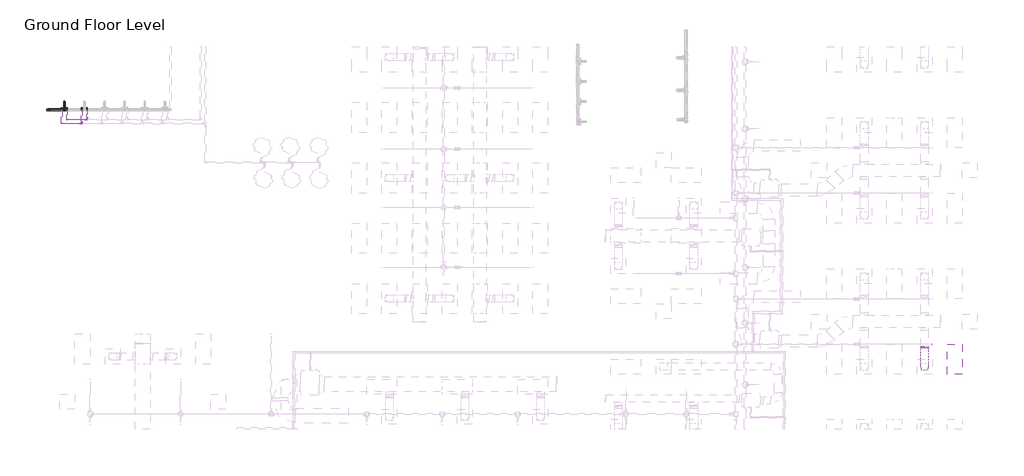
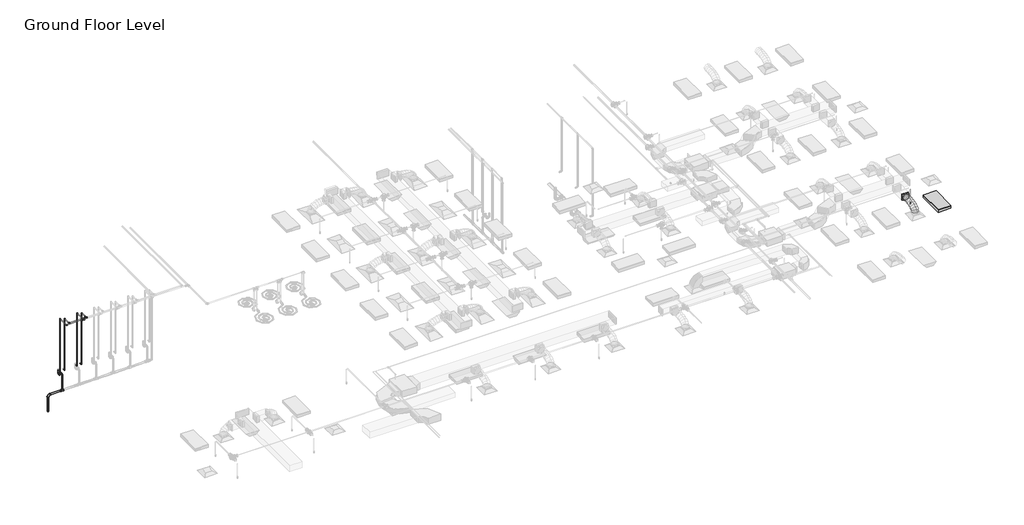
# One storey, part 39 of 74: 22 pipe fittings, 22 pipe segments, 1 duct fitting, 1 duct segment, 1 fire suppression terminal, 1 light fixture.
"""IFC4 building model written with IfcOpenShell, lengths in millimetres."""

from ifc_helpers import new_model, si_unit, point, frame, frame_2d, origin, place, context, project, spatial, circle_curve, ellipse_curve, trimmed, segment, composite_curve, outline, extrude, transform, mapped, element, save
from ifc_brep_helpers import plane_surface, cylinder_surface, advanced_brep
from components import m_rectangular_to_round_transition_angle_45_degree_641efff0, m_sprinkler_dry_pendent_hosted_15_mm_dry_pendent_9bda8e11, m_troffer_light_parabolic_rectangular1_0600x1200mm_4_lamp_86473d4a, m_bend_pvc_sch_40_dwv_standard_0eeb11e1, m_bend_pvc_sch_40_dwv_standard_1e7bdcc1, m_bend_pvc_sch_40_dwv_standard_776e50c4, m_bend_pvc_sch_40_dwv_standard_a69ec96e, m_tee_reducing_sanitary_pvc_sch_40_dwv_standard_21d2848c, standard_b266ab3f, standard_72b35c3b, standard_e954f56a, standard_c7dcb452

model = new_model("IFC4")

# Units and contexts
model_context = context("Model", 3, world=origin())
ifc_project = project(units=[si_unit("LENGTHUNIT", "METRE", prefix="MILLI")], contexts=[model_context])

# Site, building, storey
site = spatial("IfcSite", under=ifc_project)
building = spatial("IfcBuilding", under=site)
storey = spatial("IfcBuildingStorey", under=building, Name="Ground Floor Level", Elevation=900.0)

# Duct fitting
placement = place(None, origin())
m_rectangular_to_round_transition_angle_45_degree_shape = m_rectangular_to_round_transition_angle_45_degree_641efff0(model_context)
element("IfcDuctFitting", 1, ObjectType="M_Rectangular to Round Transition - Angle : 45 Degree", at=placement, inside=storey, context=model_context, shape_type="MappedRepresentation", body=[
    mapped(m_rectangular_to_round_transition_angle_45_degree_shape, transform((13142.7672395, -247.4487153, 4100.0), x_axis=(0.0, -1.0, 0.0), y_axis=(1.0, 0.0, 0.0), z_axis=(0.0, 0.0, 1.0))),
])

# Duct segment
element("IfcDuctSegment", 2, ObjectType="Flex - Round", at=placement, inside=storey, context=model_context, shape_type="AdvancedBrep", body=[
    advanced_brep(
    [(13292.7672395, -1074.7846466, 3826.6), (13142.7672395, -1224.7846466, 3826.6), (12992.7672395, -1074.7846466, 3826.6), (13142.7672395, -924.7846466, 3826.6), (13292.7672395, -1074.7846466, 3857.9377114), (13142.7672395, -1224.7846466, 3883.5809337), (12992.7672395, -1074.7846466, 3857.9377114), (13142.7672395, -924.7846466, 3832.2944892), (13292.7672395, -1057.7687141, 3906.2505728), (13142.7672395, -1191.506693, 3978.0660967), (12992.7672395, -1057.7687141, 3906.2505728), (13142.7672395, -924.0307351, 3834.435049), (13292.7672395, -1010.5848337, 3968.7113131), (13142.7672395, -1114.790733, 4079.6206026), (12992.7672395, -1010.5848337, 3968.7113131), (13142.7672395, -906.3789345, 3857.8020236), (13292.7672395, -939.0288816, 4016.0700639), (13142.7672395, -1007.9629372, 4150.3237489), (12992.7672395, -939.0288816, 4016.0700639), (13142.7672395, -870.0948259, 3881.8163788), (13292.7672395, -848.8967336, 4050.4146682), (13142.7672395, -892.4574967, 4194.3367758), (12992.7672395, -848.8967336, 4050.4146682), (13142.7672395, -805.3359704, 3906.4925606), (13292.7672395, -745.9842657, 4073.8329691), (13142.7672395, -772.5451897, 4221.6234841), (12992.7672395, -745.9842657, 4073.8329691), (13142.7672395, -719.4233417, 3926.0424542), (13292.7672395, -636.087354, 4088.4128097), (13142.7672395, -651.2382563, 4237.7170733), (12992.7672395, -636.087354, 4088.4128097), (13142.7672395, -620.9364516, 3939.1085462), (13292.7672395, -525.0018744, 4096.242033), (13142.7672395, -532.5072025, 4246.085151), (12992.7672395, -525.0018744, 4096.242033), (13142.7672395, -517.4965462, 3946.398915), (13292.7672395, -418.5237028, 4099.4084821), (13142.7672395, -421.2151959, 4249.394754), (12992.7672395, -418.5237028, 4099.4084821), (13142.7672395, -415.8322097, 3949.4222102), (13292.7672395, -322.4487153, 4100.0), (13142.7672395, -321.5252075, 3950.0028429), (12992.7672395, -322.4487153, 4100.0), (13142.7672395, -323.3722232, 4249.9971571)],
    [
        (0, 1, circle_curve(frame((13142.7672395, -1074.7846466, 3826.6), z_axis=(0.0, 0.0, -1.0), x_axis=(1.0, 0.0, 0.0)), 150.0)),
        (1, 2, circle_curve(frame((13142.7672395, -1074.7846466, 3826.6), z_axis=(0.0, 0.0, -1.0), x_axis=(1.0, 0.0, 0.0)), 150.0)),
        (2, 3, circle_curve(frame((13142.7672395, -1074.7846466, 3826.6), z_axis=(0.0, 0.0, -1.0), x_axis=(1.0, 0.0, 0.0)), 150.0)),
        (3, 0, circle_curve(frame((13142.7672395, -1074.7846466, 3826.6), z_axis=(0.0, 0.0, -1.0), x_axis=(1.0, 0.0, 0.0)), 150.0)),
        (0, 4),
        (4, 5, ellipse_curve(frame((13142.7672395, -1074.7846466, 3857.9377114), z_axis=(0.0, -0.16851014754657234, -0.9856999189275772), x_axis=(0.0, 0.9856999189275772, -0.1685101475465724)), 152.176131, 150.0)),
        (5, 1),
        (5, 6, ellipse_curve(frame((13142.7672395, -1074.7846466, 3857.9377114), z_axis=(0.0, -0.16851014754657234, -0.9856999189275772), x_axis=(0.0, 0.9856999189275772, -0.1685101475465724)), 152.176131, 150.0)),
        (6, 2),
        (6, 7, ellipse_curve(frame((13142.7672395, -1074.7846466, 3857.9377114), z_axis=(0.0, -0.16851014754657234, -0.9856999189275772), x_axis=(0.0, 0.9856999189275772, -0.1685101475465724)), 152.176131, 150.0)),
        (7, 3),
        (7, 4, ellipse_curve(frame((13142.7672395, -1074.7846466, 3857.9377114), z_axis=(0.0, -0.16851014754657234, -0.9856999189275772), x_axis=(0.0, 0.9856999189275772, -0.1685101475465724)), 152.176131, 150.0)),
        (4, 8),
        (8, 9, ellipse_curve(frame((13142.7672395, -1057.7687141, 3906.2505728), z_axis=(0.0, -0.4730922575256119, -0.8810128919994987), x_axis=(0.0, 0.8810128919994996, -0.47309225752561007)), 151.8002519, 150.0)),
        (9, 5),
        (9, 10, ellipse_curve(frame((13142.7672395, -1057.7687141, 3906.2505728), z_axis=(0.0, -0.4730922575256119, -0.8810128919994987), x_axis=(0.0, 0.8810128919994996, -0.47309225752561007)), 151.8002519, 150.0)),
        (10, 6),
        (10, 11, ellipse_curve(frame((13142.7672395, -1057.7687141, 3906.2505728), z_axis=(0.0, -0.4730922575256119, -0.8810128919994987), x_axis=(0.0, 0.8810128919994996, -0.47309225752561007)), 151.8002519, 150.0)),
        (11, 7),
        (11, 8, ellipse_curve(frame((13142.7672395, -1057.7687141, 3906.2505728), z_axis=(0.0, -0.4730922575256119, -0.8810128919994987), x_axis=(0.0, 0.8810128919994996, -0.47309225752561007)), 151.8002519, 150.0)),
        (8, 12),
        (12, 13, ellipse_curve(frame((13142.7672395, -1010.5848337, 3968.7113131), z_axis=(0.0, -0.7287877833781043, -0.6847396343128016), x_axis=(0.0, 0.684739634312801, -0.7287877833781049)), 152.1832446, 150.0)),
        (13, 9),
        (13, 14, ellipse_curve(frame((13142.7672395, -1010.5848337, 3968.7113131), z_axis=(0.0, -0.7287877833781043, -0.6847396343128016), x_axis=(0.0, 0.684739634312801, -0.7287877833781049)), 152.1832446, 150.0)),
        (14, 10),
        (14, 15, ellipse_curve(frame((13142.7672395, -1010.5848337, 3968.7113131), z_axis=(0.0, -0.7287877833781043, -0.6847396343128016), x_axis=(0.0, 0.684739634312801, -0.7287877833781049)), 152.1832446, 150.0)),
        (15, 11),
        (15, 12, ellipse_curve(frame((13142.7672395, -1010.5848337, 3968.7113131), z_axis=(0.0, -0.7287877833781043, -0.6847396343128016), x_axis=(0.0, 0.684739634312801, -0.7287877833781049)), 152.1832446, 150.0)),
        (12, 16),
        (16, 17, ellipse_curve(frame((13142.7672395, -939.0288816, 4016.0700639), z_axis=(0.0, -0.8895859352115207, -0.4567678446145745), x_axis=(0.0, 0.45676784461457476, -0.8895859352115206)), 150.91705, 150.0)),
        (17, 13),
        (17, 18, ellipse_curve(frame((13142.7672395, -939.0288816, 4016.0700639), z_axis=(0.0, -0.8895859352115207, -0.4567678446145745), x_axis=(0.0, 0.45676784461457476, -0.8895859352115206)), 150.91705, 150.0)),
        (18, 14),
        (18, 19, ellipse_curve(frame((13142.7672395, -939.0288816, 4016.0700639), z_axis=(0.0, -0.8895859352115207, -0.4567678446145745), x_axis=(0.0, 0.45676784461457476, -0.8895859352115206)), 150.91705, 150.0)),
        (19, 15),
        (19, 16, ellipse_curve(frame((13142.7672395, -939.0288816, 4016.0700639), z_axis=(0.0, -0.8895859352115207, -0.4567678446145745), x_axis=(0.0, 0.45676784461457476, -0.8895859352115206)), 150.91705, 150.0)),
        (16, 20),
        (20, 21, ellipse_curve(frame((13142.7672395, -848.8967336, 4050.4146682), z_axis=(0.0, -0.9571203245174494, -0.2896906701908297), x_axis=(0.0, 0.2896906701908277, -0.9571203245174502)), 150.369921, 150.0)),
        (21, 17),
        (21, 22, ellipse_curve(frame((13142.7672395, -848.8967336, 4050.4146682), z_axis=(0.0, -0.9571203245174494, -0.2896906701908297), x_axis=(0.0, 0.2896906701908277, -0.9571203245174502)), 150.369921, 150.0)),
        (22, 18),
        (22, 23, ellipse_curve(frame((13142.7672395, -848.8967336, 4050.4146682), z_axis=(0.0, -0.9571203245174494, -0.2896906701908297), x_axis=(0.0, 0.2896906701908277, -0.9571203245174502)), 150.369921, 150.0)),
        (23, 19),
        (23, 20, ellipse_curve(frame((13142.7672395, -848.8967336, 4050.4146682), z_axis=(0.0, -0.9571203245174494, -0.2896906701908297), x_axis=(0.0, 0.2896906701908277, -0.9571203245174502)), 150.369921, 150.0)),
        (20, 24),
        (24, 25, ellipse_curve(frame((13142.7672395, -745.9842657, 4073.8329691), z_axis=(0.0, -0.9842313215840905, -0.1768861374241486), x_axis=(0.0, 0.17688613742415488, -0.9842313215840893)), 150.1583131, 150.0)),
        (25, 21),
        (25, 26, ellipse_curve(frame((13142.7672395, -745.9842657, 4073.8329691), z_axis=(0.0, -0.9842313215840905, -0.1768861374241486), x_axis=(0.0, 0.17688613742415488, -0.9842313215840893)), 150.1583131, 150.0)),
        (26, 22),
        (26, 27, ellipse_curve(frame((13142.7672395, -745.9842657, 4073.8329691), z_axis=(0.0, -0.9842313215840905, -0.1768861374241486), x_axis=(0.0, 0.17688613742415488, -0.9842313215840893)), 150.1583131, 150.0)),
        (27, 23),
        (27, 24, ellipse_curve(frame((13142.7672395, -745.9842657, 4073.8329691), z_axis=(0.0, -0.9842313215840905, -0.1768861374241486), x_axis=(0.0, 0.17688613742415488, -0.9842313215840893)), 150.1583131, 150.0)),
        (24, 28),
        (28, 29, ellipse_curve(frame((13142.7672395, -636.087354, 4088.4128097), z_axis=(0.0, -0.9948906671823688, -0.1009582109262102), x_axis=(0.0, 0.10095821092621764, -0.994890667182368)), 150.0710264, 150.0)),
        (29, 25),
        (29, 30, ellipse_curve(frame((13142.7672395, -636.087354, 4088.4128097), z_axis=(0.0, -0.9948906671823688, -0.1009582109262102), x_axis=(0.0, 0.10095821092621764, -0.994890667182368)), 150.0710264, 150.0)),
        (30, 26),
        (30, 31, ellipse_curve(frame((13142.7672395, -636.087354, 4088.4128097), z_axis=(0.0, -0.9948906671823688, -0.1009582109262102), x_axis=(0.0, 0.10095821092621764, -0.994890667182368)), 150.0710264, 150.0)),
        (31, 27),
        (31, 28, ellipse_curve(frame((13142.7672395, -636.087354, 4088.4128097), z_axis=(0.0, -0.9948906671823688, -0.1009582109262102), x_axis=(0.0, 0.10095821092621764, -0.994890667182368)), 150.0710264, 150.0)),
        (28, 32),
        (32, 33, ellipse_curve(frame((13142.7672395, -525.0018744, 4096.242033), z_axis=(0.0, -0.9987479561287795, -0.05002519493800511), x_axis=(0.0, 0.050025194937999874, -0.9987479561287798)), 150.0309634, 150.0)),
        (33, 29),
        (33, 34, ellipse_curve(frame((13142.7672395, -525.0018744, 4096.242033), z_axis=(0.0, -0.9987479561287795, -0.05002519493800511), x_axis=(0.0, 0.050025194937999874, -0.9987479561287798)), 150.0309634, 150.0)),
        (34, 30),
        (34, 35, ellipse_curve(frame((13142.7672395, -525.0018744, 4096.242033), z_axis=(0.0, -0.9987479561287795, -0.05002519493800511), x_axis=(0.0, 0.050025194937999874, -0.9987479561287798)), 150.0309634, 150.0)),
        (35, 31),
        (35, 32, ellipse_curve(frame((13142.7672395, -525.0018744, 4096.242033), z_axis=(0.0, -0.9987479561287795, -0.05002519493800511), x_axis=(0.0, 0.050025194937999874, -0.9987479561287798)), 150.0309634, 150.0)),
        (32, 36),
        (36, 37, ellipse_curve(frame((13142.7672395, -418.5237028, 4099.4084821), z_axis=(0.0, -0.9998390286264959, -0.017942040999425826), x_axis=(0.0, 0.017942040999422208, -0.999839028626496)), 150.0104193, 150.0)),
        (37, 33),
        (37, 38, ellipse_curve(frame((13142.7672395, -418.5237028, 4099.4084821), z_axis=(0.0, -0.9998390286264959, -0.017942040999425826), x_axis=(0.0, 0.017942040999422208, -0.999839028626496)), 150.0104193, 150.0)),
        (38, 34),
        (38, 39, ellipse_curve(frame((13142.7672395, -418.5237028, 4099.4084821), z_axis=(0.0, -0.9998390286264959, -0.017942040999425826), x_axis=(0.0, 0.017942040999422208, -0.999839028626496)), 150.0104193, 150.0)),
        (39, 35),
        (39, 36, ellipse_curve(frame((13142.7672395, -418.5237028, 4099.4084821), z_axis=(0.0, -0.9998390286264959, -0.017942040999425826), x_axis=(0.0, 0.017942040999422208, -0.999839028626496)), 150.0104193, 150.0)),
        (40, 41, circle_curve(frame((13142.7672395, -322.4487153, 4100.0), z_axis=(0.0, 0.9999810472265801, 0.006156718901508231), x_axis=(1.0, 0.0, 0.0)), 150.0)),
        (41, 42, circle_curve(frame((13142.7672395, -322.4487153, 4100.0), z_axis=(0.0, 0.9999810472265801, 0.006156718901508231), x_axis=(1.0, 0.0, 0.0)), 150.0)),
        (42, 43, circle_curve(frame((13142.7672395, -322.4487153, 4100.0), z_axis=(0.0, 0.9999810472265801, 0.006156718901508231), x_axis=(1.0, 0.0, 0.0)), 150.0)),
        (43, 40, circle_curve(frame((13142.7672395, -322.4487153, 4100.0), z_axis=(0.0, 0.9999810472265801, 0.006156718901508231), x_axis=(1.0, 0.0, 0.0)), 150.0)),
        (36, 40),
        (43, 37),
        (42, 38),
        (41, 39),
    ],
    [
        plane_surface(frame((13142.7672395, -1224.7846466, 3826.6), z_axis=(0.0, 0.0, -1.0), x_axis=(1.0, 0.0, 0.0))),
        cylinder_surface(frame((13142.7672395, -1074.7846466, 3826.6), z_axis=(0.0, 0.0, -1.0), x_axis=(1.0, 0.0, 0.0)), 150.0),
        cylinder_surface(frame((13142.7672395, -1074.7846466, 3857.9377114), z_axis=(0.0, -0.3322008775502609, -0.9432086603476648), x_axis=(1.0, 0.0, 0.0)), 150.0),
        cylinder_surface(frame((13142.7672395, -1057.7687141, 3906.2505728), z_axis=(0.0, -0.6027625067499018, -0.7979206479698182), x_axis=(1.0, 0.0, 0.0)), 150.0),
        cylinder_surface(frame((13142.7672395, -1010.5848337, 3968.7113131), z_axis=(0.0, -0.8339024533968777, -0.5519118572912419), x_axis=(1.0, 0.0, 0.0)), 150.0),
        cylinder_surface(frame((13142.7672395, -939.0288816, 4016.0700639), z_axis=(0.0, -0.9344582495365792, -0.3560727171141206), x_axis=(1.0, 0.0, 0.0)), 150.0),
        cylinder_surface(frame((13142.7672395, -848.8967336, 4050.4146682), z_axis=(0.0, -0.9750732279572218, -0.22188330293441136), x_axis=(1.0, 0.0, 0.0)), 150.0),
        cylinder_surface(frame((13142.7672395, -745.9842657, 4073.8329691), z_axis=(0.0, -0.9913140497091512, -0.1315159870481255), x_axis=(1.0, 0.0, 0.0)), 150.0),
        cylinder_surface(frame((13142.7672395, -636.087354, 4088.4128097), z_axis=(0.0, -0.9975255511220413, -0.07030487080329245), x_axis=(1.0, 0.0, 0.0)), 150.0),
        cylinder_surface(frame((13142.7672395, -525.0018744, 4096.242033), z_axis=(0.0, -0.9995581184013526, -0.029724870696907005), x_axis=(1.0, 0.0, 0.0)), 150.0),
        plane_surface(frame((13142.7672395, -323.3722232, 4249.9971571), z_axis=(0.0, 0.9999810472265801, 0.006156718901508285), x_axis=(1.0, 0.0, 0.0))),
        cylinder_surface(frame((13142.7672395, -418.5237028, 4099.4084821), z_axis=(0.0, -0.9999810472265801, -0.006156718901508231), x_axis=(1.0, 0.0, 0.0)), 150.0),
    ],
    [
        (0, [[1, 2, 3, 4]]),
        (1, [[-1, 5, 6, 7]]),
        (1, [[-2, -7, 8, 9]]),
        (1, [[-3, -9, 10, 11]]),
        (1, [[-4, -11, 12, -5]]),
        (2, [[-6, 13, 14, 15]]),
        (2, [[-8, -15, 16, 17]]),
        (2, [[-10, -17, 18, 19]]),
        (2, [[-12, -19, 20, -13]]),
        (3, [[-14, 21, 22, 23]]),
        (3, [[-16, -23, 24, 25]]),
        (3, [[-18, -25, 26, 27]]),
        (3, [[-20, -27, 28, -21]]),
        (4, [[-22, 29, 30, 31]]),
        (4, [[-24, -31, 32, 33]]),
        (4, [[-26, -33, 34, 35]]),
        (4, [[-28, -35, 36, -29]]),
        (5, [[-30, 37, 38, 39]]),
        (5, [[-32, -39, 40, 41]]),
        (5, [[-34, -41, 42, 43]]),
        (5, [[-36, -43, 44, -37]]),
        (6, [[-38, 45, 46, 47]]),
        (6, [[-40, -47, 48, 49]]),
        (6, [[-42, -49, 50, 51]]),
        (6, [[-44, -51, 52, -45]]),
        (7, [[-46, 53, 54, 55]]),
        (7, [[-48, -55, 56, 57]]),
        (7, [[-50, -57, 58, 59]]),
        (7, [[-52, -59, 60, -53]]),
        (8, [[-54, 61, 62, 63]]),
        (8, [[-56, -63, 64, 65]]),
        (8, [[-58, -65, 66, 67]]),
        (8, [[-60, -67, 68, -61]]),
        (9, [[-62, 69, 70, 71]]),
        (9, [[-64, -71, 72, 73]]),
        (9, [[-66, -73, 74, 75]]),
        (9, [[-68, -75, 76, -69]]),
        (10, [[77, 78, 79, 80]]),
        (11, [[-70, 81, -80, 82]]),
        (11, [[-72, -82, -79, 83]]),
        (11, [[-74, -83, -78, 84]]),
        (11, [[-76, -84, -77, -81]]),
    ],
),
])

# Fire suppression terminal
m_sprinkler_dry_pendent_hosted_15_mm_dry_pendent_shape = m_sprinkler_dry_pendent_hosted_15_mm_dry_pendent_9bda8e11(model_context)
element("IfcFireSuppressionTerminal", 3, ObjectType="M_Sprinkler - Dry - Pendent - Hosted : 15 mm Dry Pendent", at=placement, inside=storey, context=model_context, shape_type="MappedRepresentation", body=[
    mapped(m_sprinkler_dry_pendent_hosted_15_mm_dry_pendent_shape, transform((13442.7672395, -174.7846466, 3650.0), x_axis=(1.0, 0.0, 0.0), y_axis=(0.0, -1.0, 0.0), z_axis=(0.0, 0.0, -1.0))),
])

# Light fixture
m_troffer_light_parabolic_rectangular1_0600x1200mm_4_lamp_shape = m_troffer_light_parabolic_rectangular1_0600x1200mm_4_lamp_86473d4a(model_context)
element("IfcLightFixture", 4, ObjectType="M_Troffer Light - Parabolic Rectangular1 : 0600x1200mm(4 Lamp) - 277V 2", at=placement, inside=storey, context=model_context, shape_type="MappedRepresentation", body=[
    mapped(m_troffer_light_parabolic_rectangular1_0600x1200mm_4_lamp_shape, transform((14283.3013074, -756.081145, 3650.0), x_axis=(0.0, 1.0, 0.0), y_axis=(-1.0, 0.0, 0.0), z_axis=(0.0, 0.0, 1.0))),
])

# Pipe fittings
m_bend_pvc_sch_40_dwv_standard_shape = m_bend_pvc_sch_40_dwv_standard_0eeb11e1(model_context)
element("IfcPipeFitting", 5, ObjectType="M_Bend - PVC - Sch 40 - DWV : Standard", at=placement, inside=storey, context=model_context, shape_type="MappedRepresentation", body=[
    mapped(m_bend_pvc_sch_40_dwv_standard_shape, transform((-21725.2711391, 9143.7835646, 712.5143809), x_axis=(-0.9999500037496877, 0.0, -0.009999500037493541), y_axis=(0.009999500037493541, 0.0, -0.9999500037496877), z_axis=(0.0, -1.0, 0.0))),
])
m_bend_pvc_sch_40_dwv_standard_2_shape = m_bend_pvc_sch_40_dwv_standard_1e7bdcc1(model_context)
element("IfcPipeFitting", 6, ObjectType="M_Bend - PVC - Sch 40 - DWV : Standard", at=placement, inside=storey, context=model_context, shape_type="MappedRepresentation", body=[
    mapped(m_bend_pvc_sch_40_dwv_standard_2_shape, transform((-21057.2852406, 9143.7835646, 1498.2), x_axis=(0.0, -0.9999500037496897, -0.00999950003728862), y_axis=(0.0, 0.00999950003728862, -0.9999500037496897), z_axis=(1.0, 0.0, 0.0))),
])
m_bend_pvc_sch_40_dwv_standard_3_shape = m_bend_pvc_sch_40_dwv_standard_776e50c4(model_context)
element("IfcPipeFitting", 7, ObjectType="M_Bend - PVC - Sch 40 - DWV : Standard", at=placement, inside=storey, context=model_context, shape_type="MappedRepresentation", body=[
    mapped(m_bend_pvc_sch_40_dwv_standard_3_shape, transform((-21057.2852406, 9323.7835646, 1358.65), x_axis=(0.0, -0.9999500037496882, -0.009999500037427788), y_axis=(0.0, -0.009999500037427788, 0.9999500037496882), z_axis=(-1.0, 0.0, 0.0))),
])
element("IfcPipeFitting", 8, ObjectType="M_Bend - PVC - Sch 40 - DWV : Standard", at=placement, inside=storey, context=model_context, shape_type="MappedRepresentation", body=[
    mapped(m_bend_pvc_sch_40_dwv_standard_3_shape, transform((-21057.2852406, 9323.7835646, 1500.0), x_axis=(0.0, 0.0, 1.0), y_axis=(0.0, -1.0, 0.0), z_axis=(1.0, 0.0, 0.0))),
])
m_bend_pvc_sch_40_dwv_standard_4_shape = m_bend_pvc_sch_40_dwv_standard_a69ec96e(model_context)
element("IfcPipeFitting", 9, ObjectType="M_Bend - PVC - Sch 40 - DWV : Standard", at=placement, inside=storey, context=model_context, shape_type="MappedRepresentation", body=[
    mapped(m_bend_pvc_sch_40_dwv_standard_4_shape, transform((-21057.2852406, 9458.7835646, 1360.0), x_axis=(0.0, 0.999950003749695, 0.009999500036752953), y_axis=(0.007367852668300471, -0.009999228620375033, 0.999922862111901), z_axis=(0.999972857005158, 7.36748430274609e-05, -0.007367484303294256))),
])
m_tee_reducing_sanitary_pvc_sch_40_dwv_standard_shape = m_tee_reducing_sanitary_pvc_sch_40_dwv_standard_21d2848c(model_context)
element("IfcPipeFitting", 10, ObjectType="M_Tee Reducing Sanitary - PVC - Sch 40 - DWV : Standard", at=placement, inside=storey, context=model_context, shape_type="MappedRepresentation", body=[
    mapped(m_tee_reducing_sanitary_pvc_sch_40_dwv_standard_shape, transform((-21057.2897402, 9143.7835646, 719.2941949), x_axis=(0.9999500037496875, 0.0, 0.009999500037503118), y_axis=(0.009999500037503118, 0.0, -0.9999500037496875), z_axis=(0.0, 1.0, 0.0))),
])
standard_shape = standard_b266ab3f(model_context)
element("IfcPipeFitting", 11, ObjectType="M_Elbow - CPVC - Sch 40 : Standard", at=placement, inside=storey, context=model_context, shape_type="MappedRepresentation", body=[
    mapped(standard_shape, transform((-21165.5651206, 9135.2153534, 1690.0), x_axis=(0.0, -1.0, 0.0), y_axis=(0.0, 0.0, 1.0), z_axis=(-1.0, 0.0, 0.0))),
])
element("IfcPipeFitting", 12, ObjectType="M_Elbow - CPVC - Sch 40 : Standard", at=placement, inside=storey, context=model_context, shape_type="MappedRepresentation", body=[
    mapped(standard_shape, transform((-21165.5651206, 9135.2153534, 4315.0), x_axis=(0.0, 0.0, 1.0), y_axis=(0.0, -1.0, 0.0), z_axis=(1.0, 0.0, 0.0))),
])
element("IfcPipeFitting", 13, ObjectType="M_Elbow - CPVC - Sch 40 : Standard", at=placement, inside=storey, context=model_context, shape_type="MappedRepresentation", body=[
    mapped(standard_shape, transform((-20956.9352794, 9135.2153534, 1690.0), x_axis=(0.0, -1.0, 0.0), y_axis=(0.0, 0.0, 1.0), z_axis=(-1.0, 0.0, 0.0))),
])
element("IfcPipeFitting", 14, ObjectType="M_Elbow - CPVC - Sch 40 : Standard", at=placement, inside=storey, context=model_context, shape_type="MappedRepresentation", body=[
    mapped(standard_shape, transform((-20956.9352794, 9135.2153534, 4250.0), x_axis=(0.0, 0.0, 1.0), y_axis=(0.0, -1.0, 0.0), z_axis=(1.0, 0.0, 0.0))),
])
element("IfcPipeFitting", 15, ObjectType="M_Elbow - CPVC - Sch 40 : Standard", at=placement, inside=storey, context=model_context, shape_type="MappedRepresentation", body=[
    mapped(standard_shape, transform((-20156.9352794, 9135.2153534, 4250.0), x_axis=(0.0, 0.0, 1.0), y_axis=(0.0, -1.0, 0.0), z_axis=(1.0, 0.0, 0.0))),
])
element("IfcPipeFitting", 16, ObjectType="M_Elbow - CPVC - Sch 40 : Standard", at=placement, inside=storey, context=model_context, shape_type="MappedRepresentation", body=[
    mapped(standard_shape, transform((-20365.5651206, 9135.2153534, 1690.0), x_axis=(0.0, 0.0, -1.0), y_axis=(0.0, 1.0, 0.0), z_axis=(1.0, 0.0, 0.0))),
])
element("IfcPipeFitting", 17, ObjectType="M_Elbow - CPVC - Sch 40 : Standard", at=placement, inside=storey, context=model_context, shape_type="MappedRepresentation", body=[
    mapped(standard_shape, transform((-20156.9352794, 9135.2153534, 1690.0), x_axis=(0.0, 0.0, -1.0), y_axis=(0.0, 1.0, 0.0), z_axis=(1.0, 0.0, 0.0))),
])
element("IfcPipeFitting", 18, ObjectType="M_Elbow - CPVC - Sch 40 : Standard", at=placement, inside=storey, context=model_context, shape_type="MappedRepresentation", body=[
    mapped(standard_shape, transform((-20365.5651206, 9135.2153534, 4315.0), x_axis=(0.0, 0.0, 1.0), y_axis=(0.0, -1.0, 0.0), z_axis=(1.0, 0.0, 0.0))),
])
element("IfcPipeFitting", 19, ObjectType="M_Elbow - CPVC - Sch 40 : Standard", at=placement, inside=storey, context=model_context, shape_type="MappedRepresentation", body=[
    mapped(standard_shape, transform((-21165.5651206, 8599.9071734, 4315.0), x_axis=(0.0, -1.0, 0.0), y_axis=(1.0, 0.0, 0.0), z_axis=(0.0, 0.0, 1.0))),
])
element("IfcPipeFitting", 20, ObjectType="M_Elbow - CPVC - Sch 40 : Standard", at=placement, inside=storey, context=model_context, shape_type="MappedRepresentation", body=[
    mapped(standard_shape, transform((-20956.9352794, 8755.2153534, 4250.0), x_axis=(0.0, -1.0, 0.0), y_axis=(1.0, 0.0, 0.0), z_axis=(0.0, 0.0, 1.0))),
])
standard_2_shape = standard_72b35c3b(model_context)
element("IfcPipeFitting", 21, ObjectType="M_Tee - CPVC - Sch 40 : Standard", at=placement, inside=storey, context=model_context, shape_type="MappedRepresentation", body=[
    mapped(standard_2_shape, transform((-20365.5651206, 8599.9071734, 4315.0), x_axis=(1.0, 0.0, 0.0), y_axis=(0.0, -1.0, 0.0), z_axis=(0.0, 0.0, -1.0))),
])
element("IfcPipeFitting", 22, ObjectType="M_Tee - CPVC - Sch 40 : Standard", at=placement, inside=storey, context=model_context, shape_type="MappedRepresentation", body=[
    mapped(standard_2_shape, transform((-20156.9352794, 8755.2153534, 4250.0), x_axis=(-1.0, 0.0, 0.0), y_axis=(0.0, -1.0, 0.0), z_axis=(0.0, 0.0, 1.0))),
])
standard_3_shape = standard_e954f56a(model_context)
element("IfcPipeFitting", 23, ObjectType="M_Coupling Reducing - CPVC - Sch 40 : Standard", at=placement, inside=storey, context=model_context, shape_type="MappedRepresentation", body=[
    mapped(standard_3_shape, transform((-20365.5651206, 8639.6073734, 4315.0), x_axis=(0.0, 1.0, 0.0), y_axis=(-1.0, 0.0, 0.0), z_axis=(0.0, 0.0, 1.0))),
])
element("IfcPipeFitting", 24, ObjectType="M_Coupling Reducing - CPVC - Sch 40 : Standard", at=placement, inside=storey, context=model_context, shape_type="MappedRepresentation", body=[
    mapped(standard_3_shape, transform((-20196.6354794, 8755.2153534, 4250.0), x_axis=(-1.0, 0.0, 0.0), y_axis=(0.0, -1.0, 0.0), z_axis=(0.0, 0.0, 1.0))),
])
element("IfcPipeFitting", 25, ObjectType="M_Coupling Reducing - CPVC - Sch 40 : Standard", at=placement, inside=storey, context=model_context, shape_type="MappedRepresentation", body=[
    mapped(standard_3_shape, transform((-20156.9352794, 8794.9155534, 4250.0), x_axis=(0.0, 1.0, 0.0), y_axis=(-1.0, 0.0, 0.0), z_axis=(0.0, 0.0, 1.0))),
])
standard_4_shape = standard_c7dcb452(model_context)
element("IfcPipeFitting", 26, ObjectType="M_Coupling Reducing - CPVC - Sch 40 : Standard", at=placement, inside=storey, context=model_context, shape_type="MappedRepresentation", body=[
    mapped(standard_4_shape, transform((-20462.4153206, 8599.9071734, 4315.0), x_axis=(1.0, 0.0, 0.0), y_axis=(0.0, 1.0, 0.0), z_axis=(0.0, 0.0, 1.0))),
])

# Pipe segments
element("IfcPipeSegment", 27, ObjectType="CPVC", at=placement, inside=storey, context=model_context, shape_type="SweptSolid", body=[
    extrude(outline(composite_curve([segment(trimmed(circle_curve(frame_2d((1690.0, -21165.5651206)), 13.335), [point((1690.0, -21178.9001206))], [point((1676.665, -21165.5651206))], False, "CARTESIAN"), True, "CONTINUOUS"), segment(trimmed(circle_curve(frame_2d((1690.0, -21165.5651206)), 13.335), [point((1676.665, -21165.5651206))], [point((1690.0, -21152.2301206))], False, "CARTESIAN"), True, "CONTINUOUS"), segment(trimmed(circle_curve(frame_2d((1690.0, -21165.5651206)), 13.335), [point((1690.0, -21152.2301206))], [point((1703.335, -21165.5651206))], False, "CARTESIAN"), True, "CONTINUOUS"), segment(trimmed(circle_curve(frame_2d((1690.0, -21165.5651206)), 13.335), [point((1703.335, -21165.5651206))], [point((1690.0, -21178.9001206))], False, "CARTESIAN"), True, "CONTINUOUS")], self_intersect=False)), frame((0.0, 9170.5404034, 0.0), z_axis=(0.0, 1.0, 0.0), x_axis=(0.0, 0.0, 1.0)), (0.0, 0.0, 1.0), 64.67495),
])
element("IfcPipeSegment", 28, ObjectType="CPVC", at=placement, inside=storey, context=model_context, shape_type="SweptSolid", body=[
    extrude(outline(composite_curve([segment(trimmed(circle_curve(frame_2d((4315.0, -21165.5651206)), 13.335), [point((4315.0, -21178.9001206))], [point((4301.665, -21165.5651206))], False, "CARTESIAN"), True, "CONTINUOUS"), segment(trimmed(circle_curve(frame_2d((4315.0, -21165.5651206)), 13.335), [point((4301.665, -21165.5651206))], [point((4315.0, -21152.2301206))], False, "CARTESIAN"), True, "CONTINUOUS"), segment(trimmed(circle_curve(frame_2d((4315.0, -21165.5651206)), 13.335), [point((4315.0, -21152.2301206))], [point((4328.335, -21165.5651206))], False, "CARTESIAN"), True, "CONTINUOUS"), segment(trimmed(circle_curve(frame_2d((4315.0, -21165.5651206)), 13.335), [point((4328.335, -21165.5651206))], [point((4315.0, -21178.9001206))], False, "CARTESIAN"), True, "CONTINUOUS")], self_intersect=False)), frame((0.0, 8635.2322234, 0.0), z_axis=(0.0, 1.0, 0.0), x_axis=(0.0, 0.0, 1.0)), (0.0, 0.0, 1.0), 464.65808),
])
element("IfcPipeSegment", 29, ObjectType="CPVC", at=placement, inside=storey, context=model_context, shape_type="SweptSolid", body=[
    extrude(outline(composite_curve([segment(trimmed(circle_curve(frame_2d((-21165.5651206, 9135.2153534)), 13.335), [point((-21178.9001206, 9135.2153534))], [point((-21165.5651206, 9148.5503534))], False, "CARTESIAN"), True, "CONTINUOUS"), segment(trimmed(circle_curve(frame_2d((-21165.5651206, 9135.2153534)), 13.335), [point((-21165.5651206, 9148.5503534))], [point((-21152.2301206, 9135.2153534))], False, "CARTESIAN"), True, "CONTINUOUS"), segment(trimmed(circle_curve(frame_2d((-21165.5651206, 9135.2153534)), 13.335), [point((-21152.2301206, 9135.2153534))], [point((-21165.5651206, 9121.8803534))], False, "CARTESIAN"), True, "CONTINUOUS"), segment(trimmed(circle_curve(frame_2d((-21165.5651206, 9135.2153534)), 13.335), [point((-21165.5651206, 9121.8803534))], [point((-21178.9001206, 9135.2153534))], False, "CARTESIAN"), True, "CONTINUOUS")], self_intersect=False)), frame((0.0, 0.0, 1725.32505), z_axis=(0.0, 0.0, 1.0), x_axis=(1.0, 0.0, 0.0)), (0.0, 0.0, 1.0), 2554.3499),
])
element("IfcPipeSegment", 30, ObjectType="CPVC", at=placement, inside=storey, context=model_context, shape_type="SweptSolid", body=[
    extrude(outline(composite_curve([segment(trimmed(circle_curve(frame_2d((1690.0, -20956.9352794)), 13.335), [point((1690.0, -20970.2702794))], [point((1676.665, -20956.9352794))], False, "CARTESIAN"), True, "CONTINUOUS"), segment(trimmed(circle_curve(frame_2d((1690.0, -20956.9352794)), 13.335), [point((1676.665, -20956.9352794))], [point((1690.0, -20943.6002794))], False, "CARTESIAN"), True, "CONTINUOUS"), segment(trimmed(circle_curve(frame_2d((1690.0, -20956.9352794)), 13.335), [point((1690.0, -20943.6002794))], [point((1703.335, -20956.9352794))], False, "CARTESIAN"), True, "CONTINUOUS"), segment(trimmed(circle_curve(frame_2d((1690.0, -20956.9352794)), 13.335), [point((1703.335, -20956.9352794))], [point((1690.0, -20970.2702794))], False, "CARTESIAN"), True, "CONTINUOUS")], self_intersect=False)), frame((0.0, 9170.5404034, 0.0), z_axis=(0.0, 1.0, 0.0), x_axis=(0.0, 0.0, 1.0)), (0.0, 0.0, 1.0), 64.67495),
])
element("IfcPipeSegment", 31, ObjectType="CPVC", at=placement, inside=storey, context=model_context, shape_type="SweptSolid", body=[
    extrude(outline(composite_curve([segment(trimmed(circle_curve(frame_2d((4250.0, -20956.9352794)), 13.335), [point((4250.0, -20970.2702794))], [point((4236.665, -20956.9352794))], False, "CARTESIAN"), True, "CONTINUOUS"), segment(trimmed(circle_curve(frame_2d((4250.0, -20956.9352794)), 13.335), [point((4236.665, -20956.9352794))], [point((4250.0, -20943.6002794))], False, "CARTESIAN"), True, "CONTINUOUS"), segment(trimmed(circle_curve(frame_2d((4250.0, -20956.9352794)), 13.335), [point((4250.0, -20943.6002794))], [point((4263.335, -20956.9352794))], False, "CARTESIAN"), True, "CONTINUOUS"), segment(trimmed(circle_curve(frame_2d((4250.0, -20956.9352794)), 13.335), [point((4263.335, -20956.9352794))], [point((4250.0, -20970.2702794))], False, "CARTESIAN"), True, "CONTINUOUS")], self_intersect=False)), frame((0.0, 8790.5404034, 0.0), z_axis=(0.0, 1.0, 0.0), x_axis=(0.0, 0.0, 1.0)), (0.0, 0.0, 1.0), 309.3499),
])
element("IfcPipeSegment", 32, ObjectType="CPVC", at=placement, inside=storey, context=model_context, shape_type="SweptSolid", body=[
    extrude(outline(composite_curve([segment(trimmed(circle_curve(frame_2d((-20956.9352794, 9135.2153534)), 13.335), [point((-20970.2702794, 9135.2153534))], [point((-20956.9352794, 9148.5503534))], False, "CARTESIAN"), True, "CONTINUOUS"), segment(trimmed(circle_curve(frame_2d((-20956.9352794, 9135.2153534)), 13.335), [point((-20956.9352794, 9148.5503534))], [point((-20943.6002794, 9135.2153534))], False, "CARTESIAN"), True, "CONTINUOUS"), segment(trimmed(circle_curve(frame_2d((-20956.9352794, 9135.2153534)), 13.335), [point((-20943.6002794, 9135.2153534))], [point((-20956.9352794, 9121.8803534))], False, "CARTESIAN"), True, "CONTINUOUS"), segment(trimmed(circle_curve(frame_2d((-20956.9352794, 9135.2153534)), 13.335), [point((-20956.9352794, 9121.8803534))], [point((-20970.2702794, 9135.2153534))], False, "CARTESIAN"), True, "CONTINUOUS")], self_intersect=False)), frame((0.0, 0.0, 1725.32505), z_axis=(0.0, 0.0, 1.0), x_axis=(1.0, 0.0, 0.0)), (0.0, 0.0, 1.0), 2489.3499),
])
element("IfcPipeSegment", 33, ObjectType="CPVC", at=placement, inside=storey, context=model_context, shape_type="SweptSolid", body=[
    extrude(outline(composite_curve([segment(trimmed(circle_curve(frame_2d((0.0, 13.335)), 13.335), [point((0.0, 26.67))], [point((13.335, 13.335))], False, "CARTESIAN"), True, "CONTINUOUS"), segment(trimmed(circle_curve(frame_2d((0.0, 13.335)), 13.335), [point((13.335, 13.335))], [point((0.0, 0.0))], False, "CARTESIAN"), True, "CONTINUOUS"), segment(trimmed(circle_curve(frame_2d((0.0, 13.335)), 13.335), [point((0.0, 0.0))], [point((-13.335, 13.335))], False, "CARTESIAN"), True, "CONTINUOUS"), segment(trimmed(circle_curve(frame_2d((0.0, 13.335)), 13.335), [point((-13.335, 13.335))], [point((0.0, 26.67))], False, "CARTESIAN"), True, "CONTINUOUS")], self_intersect=False)), frame((-20378.9001206, 9170.5404034, 1690.0), z_axis=(-6.212173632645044e-12, 1.0, 0.0), x_axis=(0.0, 0.0, 1.0)), (0.0, 0.0, 1.0), 64.67495),
])
element("IfcPipeSegment", 34, ObjectType="CPVC", at=placement, inside=storey, context=model_context, shape_type="SweptSolid", body=[
    extrude(outline(composite_curve([segment(trimmed(circle_curve(frame_2d((4315.0, -20365.5651206)), 13.335), [point((4315.0, -20378.9001206))], [point((4301.665, -20365.5651206))], False, "CARTESIAN"), True, "CONTINUOUS"), segment(trimmed(circle_curve(frame_2d((4315.0, -20365.5651206)), 13.335), [point((4301.665, -20365.5651206))], [point((4315.0, -20352.2301206))], False, "CARTESIAN"), True, "CONTINUOUS"), segment(trimmed(circle_curve(frame_2d((4315.0, -20365.5651206)), 13.335), [point((4315.0, -20352.2301206))], [point((4328.335, -20365.5651206))], False, "CARTESIAN"), True, "CONTINUOUS"), segment(trimmed(circle_curve(frame_2d((4315.0, -20365.5651206)), 13.335), [point((4328.335, -20365.5651206))], [point((4315.0, -20378.9001206))], False, "CARTESIAN"), True, "CONTINUOUS")], self_intersect=False)), frame((0.0, 8696.7573734, 0.0), z_axis=(0.0, 1.0, 0.0), x_axis=(0.0, 0.0, 1.0)), (0.0, 0.0, 1.0), 403.13293),
])
element("IfcPipeSegment", 35, ObjectType="CPVC", at=placement, inside=storey, context=model_context, shape_type="SweptSolid", body=[
    extrude(outline(composite_curve([segment(trimmed(circle_curve(frame_2d((-20365.5651206, 9135.2153534)), 13.335), [point((-20378.9001206, 9135.2153534))], [point((-20365.5651206, 9148.5503534))], False, "CARTESIAN"), True, "CONTINUOUS"), segment(trimmed(circle_curve(frame_2d((-20365.5651206, 9135.2153534)), 13.335), [point((-20365.5651206, 9148.5503534))], [point((-20352.2301206, 9135.2153534))], False, "CARTESIAN"), True, "CONTINUOUS"), segment(trimmed(circle_curve(frame_2d((-20365.5651206, 9135.2153534)), 13.335), [point((-20352.2301206, 9135.2153534))], [point((-20365.5651206, 9121.8803534))], False, "CARTESIAN"), True, "CONTINUOUS"), segment(trimmed(circle_curve(frame_2d((-20365.5651206, 9135.2153534)), 13.335), [point((-20365.5651206, 9121.8803534))], [point((-20378.9001206, 9135.2153534))], False, "CARTESIAN"), True, "CONTINUOUS")], self_intersect=False)), frame((0.0, 0.0, 1725.32505), z_axis=(0.0, 0.0, 1.0), x_axis=(1.0, 0.0, 0.0)), (0.0, 0.0, 1.0), 2554.3499),
])
element("IfcPipeSegment", 36, ObjectType="CPVC", at=placement, inside=storey, context=model_context, shape_type="SweptSolid", body=[
    extrude(outline(composite_curve([segment(trimmed(circle_curve(frame_2d((0.0, 13.335)), 13.335), [point((0.0, 26.67))], [point((13.335, 13.335))], False, "CARTESIAN"), True, "CONTINUOUS"), segment(trimmed(circle_curve(frame_2d((0.0, 13.335)), 13.335), [point((13.335, 13.335))], [point((0.0, 0.0))], False, "CARTESIAN"), True, "CONTINUOUS"), segment(trimmed(circle_curve(frame_2d((0.0, 13.335)), 13.335), [point((0.0, 0.0))], [point((-13.335, 13.335))], False, "CARTESIAN"), True, "CONTINUOUS"), segment(trimmed(circle_curve(frame_2d((0.0, 13.335)), 13.335), [point((-13.335, 13.335))], [point((0.0, 26.67))], False, "CARTESIAN"), True, "CONTINUOUS")], self_intersect=False)), frame((-20170.2702794, 9170.5404034, 1690.0), z_axis=(-6.212173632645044e-12, 1.0, 0.0), x_axis=(0.0, 0.0, 1.0)), (0.0, 0.0, 1.0), 64.67495),
])
element("IfcPipeSegment", 37, ObjectType="CPVC", at=placement, inside=storey, context=model_context, shape_type="SweptSolid", body=[
    extrude(outline(composite_curve([segment(trimmed(circle_curve(frame_2d((4250.0, -20156.9352794)), 13.335), [point((4250.0, -20170.2702794))], [point((4236.665, -20156.9352794))], False, "CARTESIAN"), True, "CONTINUOUS"), segment(trimmed(circle_curve(frame_2d((4250.0, -20156.9352794)), 13.335), [point((4236.665, -20156.9352794))], [point((4250.0, -20143.6002794))], False, "CARTESIAN"), True, "CONTINUOUS"), segment(trimmed(circle_curve(frame_2d((4250.0, -20156.9352794)), 13.335), [point((4250.0, -20143.6002794))], [point((4263.335, -20156.9352794))], False, "CARTESIAN"), True, "CONTINUOUS"), segment(trimmed(circle_curve(frame_2d((4250.0, -20156.9352794)), 13.335), [point((4263.335, -20156.9352794))], [point((4250.0, -20170.2702794))], False, "CARTESIAN"), True, "CONTINUOUS")], self_intersect=False)), frame((0.0, 8852.0655534, 0.0), z_axis=(0.0, 1.0, 0.0), x_axis=(0.0, 0.0, 1.0)), (0.0, 0.0, 1.0), 247.82475),
])
element("IfcPipeSegment", 38, ObjectType="CPVC", at=placement, inside=storey, context=model_context, shape_type="SweptSolid", body=[
    extrude(outline(composite_curve([segment(trimmed(circle_curve(frame_2d((-20156.9352794, 9135.2153534)), 13.335), [point((-20170.2702794, 9135.2153534))], [point((-20156.9352794, 9148.5503534))], False, "CARTESIAN"), True, "CONTINUOUS"), segment(trimmed(circle_curve(frame_2d((-20156.9352794, 9135.2153534)), 13.335), [point((-20156.9352794, 9148.5503534))], [point((-20143.6002794, 9135.2153534))], False, "CARTESIAN"), True, "CONTINUOUS"), segment(trimmed(circle_curve(frame_2d((-20156.9352794, 9135.2153534)), 13.335), [point((-20143.6002794, 9135.2153534))], [point((-20156.9352794, 9121.8803534))], False, "CARTESIAN"), True, "CONTINUOUS"), segment(trimmed(circle_curve(frame_2d((-20156.9352794, 9135.2153534)), 13.335), [point((-20156.9352794, 9121.8803534))], [point((-20170.2702794, 9135.2153534))], False, "CARTESIAN"), True, "CONTINUOUS")], self_intersect=False)), frame((0.0, 0.0, 1725.32505), z_axis=(0.0, 0.0, 1.0), x_axis=(1.0, 0.0, 0.0)), (0.0, 0.0, 1.0), 2489.3499),
])
element("IfcPipeSegment", 39, ObjectType="CPVC", at=placement, inside=storey, context=model_context, shape_type="SweptSolid", body=[
    extrude(outline(composite_curve([segment(trimmed(circle_curve(frame_2d((8599.9071734, 4315.0)), 13.335), [point((8586.5721734, 4315.0))], [point((8599.9071734, 4328.335))], False, "CARTESIAN"), True, "CONTINUOUS"), segment(trimmed(circle_curve(frame_2d((8599.9071734, 4315.0)), 13.335), [point((8599.9071734, 4328.335))], [point((8613.2421734, 4315.0))], False, "CARTESIAN"), True, "CONTINUOUS"), segment(trimmed(circle_curve(frame_2d((8599.9071734, 4315.0)), 13.335), [point((8613.2421734, 4315.0))], [point((8599.9071734, 4301.665))], False, "CARTESIAN"), True, "CONTINUOUS"), segment(trimmed(circle_curve(frame_2d((8599.9071734, 4315.0)), 13.335), [point((8599.9071734, 4301.665))], [point((8586.5721734, 4315.0))], False, "CARTESIAN"), True, "CONTINUOUS")], self_intersect=False)), frame((-21130.2400706, 0.0, 0.0), z_axis=(1.0, 0.0, 0.0), x_axis=(0.0, 1.0, 0.0)), (0.0, 0.0, 1.0), 667.82475),
])
element("IfcPipeSegment", 40, ObjectType="CPVC", at=placement, inside=storey, context=model_context, shape_type="SweptSolid", body=[
    extrude(outline(composite_curve([segment(trimmed(circle_curve(frame_2d((8755.2153534, 4250.0)), 13.335), [point((8741.8803534, 4250.0))], [point((8755.2153534, 4263.335))], False, "CARTESIAN"), True, "CONTINUOUS"), segment(trimmed(circle_curve(frame_2d((8755.2153534, 4250.0)), 13.335), [point((8755.2153534, 4263.335))], [point((8768.5503534, 4250.0))], False, "CARTESIAN"), True, "CONTINUOUS"), segment(trimmed(circle_curve(frame_2d((8755.2153534, 4250.0)), 13.335), [point((8768.5503534, 4250.0))], [point((8755.2153534, 4236.665))], False, "CARTESIAN"), True, "CONTINUOUS"), segment(trimmed(circle_curve(frame_2d((8755.2153534, 4250.0)), 13.335), [point((8755.2153534, 4236.665))], [point((8741.8803534, 4250.0))], False, "CARTESIAN"), True, "CONTINUOUS")], self_intersect=False)), frame((-20921.6102294, 0.0, 0.0), z_axis=(1.0, 0.0, 0.0), x_axis=(0.0, 1.0, 0.0)), (0.0, 0.0, 1.0), 667.82475),
])
element("IfcPipeSegment", 41, ObjectType="PVC - DWV", at=placement, inside=storey, context=model_context, shape_type="SweptSolid", body=[
    extrude(outline(composite_curve([segment(trimmed(circle_curve(frame_2d((0.0, -36.5125)), 36.5125), [point((-36.5125, -36.5125))], [point((0.0, 0.0))], False, "CARTESIAN"), True, "CONTINUOUS"), segment(trimmed(circle_curve(frame_2d((0.0, -36.5125)), 36.5125), [point((0.0, 0.0))], [point((36.5125, -36.5125))], False, "CARTESIAN"), True, "CONTINUOUS"), segment(trimmed(circle_curve(frame_2d((0.0, -36.5125)), 36.5125), [point((36.5125, -36.5125))], [point((0.0, -73.025))], False, "CARTESIAN"), True, "CONTINUOUS"), segment(trimmed(circle_curve(frame_2d((0.0, -36.5125)), 36.5125), [point((0.0, -73.025))], [point((-36.5125, -36.5125))], False, "CARTESIAN"), True, "CONTINUOUS")], self_intersect=False)), frame((-21725.2676395, 9107.2710646, -100.0), z_axis=(-4.9049032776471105e-06, 0.0, 0.999999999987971), x_axis=(-0.999999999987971, 0.0, -4.9049032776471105e-06)), (0.0, 0.0, 1.0), 713.5003184),
])
element("IfcPipeSegment", 42, ObjectType="PVC - DWV", at=placement, inside=storey, context=model_context, shape_type="SweptSolid", body=[
    extrude(outline(composite_curve([segment(trimmed(circle_curve(frame_2d((0.0, -36.5125)), 36.5125), [point((0.0, 0.0))], [point((36.5125, -36.5125))], False, "CARTESIAN"), True, "CONTINUOUS"), segment(trimmed(circle_curve(frame_2d((0.0, -36.5125)), 36.5125), [point((36.5125, -36.5125))], [point((0.0, -73.025))], False, "CARTESIAN"), True, "CONTINUOUS"), segment(trimmed(circle_curve(frame_2d((0.0, -36.5125)), 36.5125), [point((0.0, -73.025))], [point((-36.5125, -36.5125))], False, "CARTESIAN"), True, "CONTINUOUS"), segment(trimmed(circle_curve(frame_2d((0.0, -36.5125)), 36.5125), [point((-36.5125, -36.5125))], [point((0.0, 0.0))], False, "CARTESIAN"), True, "CONTINUOUS")], self_intersect=False)), frame((-21626.2630268, 9180.2960646, 713.604462), z_axis=(0.9999500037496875, 0.0, 0.009999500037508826), x_axis=(0.009999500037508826, 0.0, -0.9999500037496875)), (0.0, 0.0, 1.0), 489.9386158),
])
element("IfcPipeSegment", 43, ObjectType="PVC - DWV", at=placement, inside=storey, context=model_context, shape_type="SweptSolid", body=[
    extrude(outline(composite_curve([segment(trimmed(circle_curve(frame_2d((-21056.8291948, 9458.7835646)), 24.13), [point((-21080.9591948, 9458.7835646))], [point((-21056.8291948, 9482.9135646))], False, "CARTESIAN"), True, "CONTINUOUS"), segment(trimmed(circle_curve(frame_2d((-21056.8291948, 9458.7835646)), 24.13), [point((-21056.8291948, 9482.9135646))], [point((-21032.6991948, 9458.7835646))], False, "CARTESIAN"), True, "CONTINUOUS"), segment(trimmed(circle_curve(frame_2d((-21056.8291948, 9458.7835646)), 24.13), [point((-21032.6991948, 9458.7835646))], [point((-21056.8291948, 9434.6535646))], False, "CARTESIAN"), True, "CONTINUOUS"), segment(trimmed(circle_curve(frame_2d((-21056.8291948, 9458.7835646)), 24.13), [point((-21056.8291948, 9434.6535646))], [point((-21080.9591948, 9458.7835646))], False, "CARTESIAN"), True, "CONTINUOUS")], self_intersect=False)), frame((0.0, 0.0, 1421.89812), z_axis=(0.0, 0.0, 1.0), x_axis=(1.0, 0.0, 0.0)), (0.0, 0.0, 1.0), 128.10188),
])
element("IfcPipeSegment", 44, ObjectType="PVC - DWV", at=placement, inside=storey, context=model_context, shape_type="SweptSolid", body=[
    extrude(outline(composite_curve([segment(trimmed(circle_curve(frame_2d((0.0, -24.13)), 24.13), [point((-24.13, -24.13))], [point((0.0, 0.0))], False, "CARTESIAN"), True, "CONTINUOUS"), segment(trimmed(circle_curve(frame_2d((0.0, -24.13)), 24.13), [point((0.0, 0.0))], [point((24.13, -24.13))], False, "CARTESIAN"), True, "CONTINUOUS"), segment(trimmed(circle_curve(frame_2d((0.0, -24.13)), 24.13), [point((24.13, -24.13))], [point((0.0, -48.2599999))], False, "CARTESIAN"), True, "CONTINUOUS"), segment(trimmed(circle_curve(frame_2d((0.0, -24.13)), 24.13), [point((0.0, -48.2599999))], [point((-24.13, -24.13))], False, "CARTESIAN"), True, "CONTINUOUS")], self_intersect=False)), frame((-21057.2852406, 9385.9215577, 1335.1401735), z_axis=(0.0, 0.9999500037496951, 0.00999950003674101), x_axis=(1.0, 0.0, 0.0)), (0.0, 0.0, 1.0), 11.2071498),
])
element("IfcPipeSegment", 45, ObjectType="PVC - DWV", at=placement, inside=storey, context=model_context, shape_type="SweptSolid", body=[
    extrude(outline(composite_curve([segment(trimmed(circle_curve(frame_2d((-21057.2852406, 9323.7835646)), 24.13), [point((-21081.4152406, 9323.7835646))], [point((-21057.2852406, 9347.9135646))], False, "CARTESIAN"), True, "CONTINUOUS"), segment(trimmed(circle_curve(frame_2d((-21057.2852406, 9323.7835646)), 24.13), [point((-21057.2852406, 9347.9135646))], [point((-21033.1552406, 9323.7835646))], False, "CARTESIAN"), True, "CONTINUOUS"), segment(trimmed(circle_curve(frame_2d((-21057.2852406, 9323.7835646)), 24.13), [point((-21033.1552406, 9323.7835646))], [point((-21057.2852406, 9299.6535646))], False, "CARTESIAN"), True, "CONTINUOUS"), segment(trimmed(circle_curve(frame_2d((-21057.2852406, 9323.7835646)), 24.13), [point((-21057.2852406, 9299.6535646))], [point((-21081.4152406, 9323.7835646))], False, "CARTESIAN"), True, "CONTINUOUS")], self_intersect=False)), frame((0.0, 0.0, 1420.5498), z_axis=(0.0, 0.0, 1.0), x_axis=(1.0, 0.0, 0.0)), (0.0, 0.0, 1.0), 17.5504),
])
element("IfcPipeSegment", 46, ObjectType="PVC - DWV", at=placement, inside=storey, context=model_context, shape_type="SweptSolid", body=[
    extrude(outline(composite_curve([segment(trimmed(circle_curve(frame_2d((0.0, -24.13)), 24.13), [point((-24.13, -24.13))], [point((0.0, 0.0))], False, "CARTESIAN"), True, "CONTINUOUS"), segment(trimmed(circle_curve(frame_2d((0.0, -24.13)), 24.13), [point((0.0, 0.0))], [point((24.13, -24.13))], False, "CARTESIAN"), True, "CONTINUOUS"), segment(trimmed(circle_curve(frame_2d((0.0, -24.13)), 24.13), [point((24.13, -24.13))], [point((0.0, -48.2599999))], False, "CARTESIAN"), True, "CONTINUOUS"), segment(trimmed(circle_curve(frame_2d((0.0, -24.13)), 24.13), [point((0.0, -48.2599999))], [point((-24.13, -24.13))], False, "CARTESIAN"), True, "CONTINUOUS")], self_intersect=False)), frame((-21057.2852406, 9205.9215577, 1474.6901735), z_axis=(0.0, 0.9999500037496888, 0.009999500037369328), x_axis=(1.0, 0.0, 0.0)), (0.0, 0.0, 1.0), 56.2093998),
])
element("IfcPipeSegment", 47, ObjectType="PVC - DWV", at=placement, inside=storey, context=model_context, shape_type="SweptSolid", body=[
    extrude(outline(composite_curve([segment(trimmed(circle_curve(frame_2d((0.0, 24.13)), 24.13), [point((-24.13, 24.13))], [point((0.0, 48.26))], False, "CARTESIAN"), True, "CONTINUOUS"), segment(trimmed(circle_curve(frame_2d((0.0, 24.13)), 24.13), [point((0.0, 48.26))], [point((24.13, 24.13))], False, "CARTESIAN"), True, "CONTINUOUS"), segment(trimmed(circle_curve(frame_2d((0.0, 24.13)), 24.13), [point((24.13, 24.13))], [point((0.0, 0.0))], False, "CARTESIAN"), True, "CONTINUOUS"), segment(trimmed(circle_curve(frame_2d((0.0, 24.13)), 24.13), [point((0.0, 0.0))], [point((-24.13, 24.13))], False, "CARTESIAN"), True, "CONTINUOUS")], self_intersect=False)), frame((-21057.2897402, 9119.6535646, 800.1416511), z_axis=(7.07300102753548e-06, 0.0, 0.9999999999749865), x_axis=(0.9999999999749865, 0.0, -7.07300102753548e-06)), (0.0, 0.0, 1.0), 636.1585489),
])
element("IfcPipeSegment", 48, ObjectType="Steel flanged", at=placement, inside=storey, context=model_context, shape_type="SweptSolid", body=[
    extrude(outline(composite_curve([segment(trimmed(circle_curve(frame_2d((13442.7672395, -174.7846466)), 10.668), [point((13432.0992395, -174.7846466))], [point((13442.7672395, -164.1166466))], False, "CARTESIAN"), True, "CONTINUOUS"), segment(trimmed(circle_curve(frame_2d((13442.7672395, -174.7846466)), 10.668), [point((13442.7672395, -164.1166466))], [point((13453.4352395, -174.7846466))], False, "CARTESIAN"), True, "CONTINUOUS"), segment(trimmed(circle_curve(frame_2d((13442.7672395, -174.7846466)), 10.668), [point((13453.4352395, -174.7846466))], [point((13442.7672395, -185.4526466))], False, "CARTESIAN"), True, "CONTINUOUS"), segment(trimmed(circle_curve(frame_2d((13442.7672395, -174.7846466)), 10.668), [point((13442.7672395, -185.4526466))], [point((13432.0992395, -174.7846466))], False, "CARTESIAN"), True, "CONTINUOUS")], self_intersect=False)), frame((0.0, 0.0, 3650.0), z_axis=(0.0, 0.0, 1.0), x_axis=(1.0, 0.0, 0.0)), (0.0, 0.0, 1.0), 616.9914062),
])

save(model, "model.ifc")
